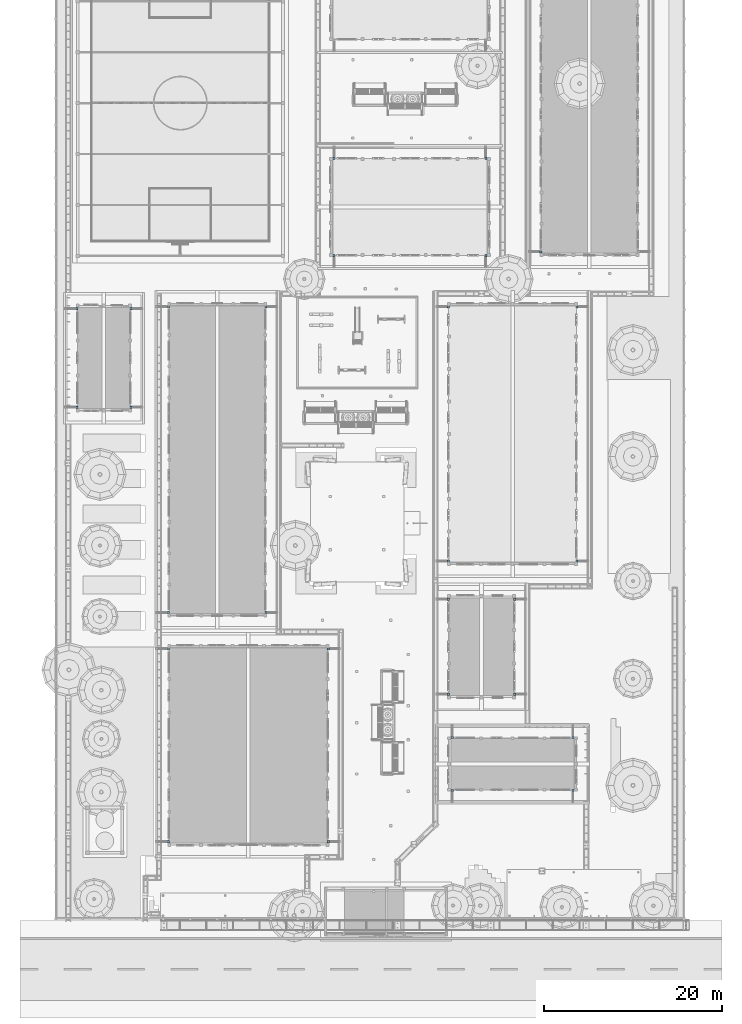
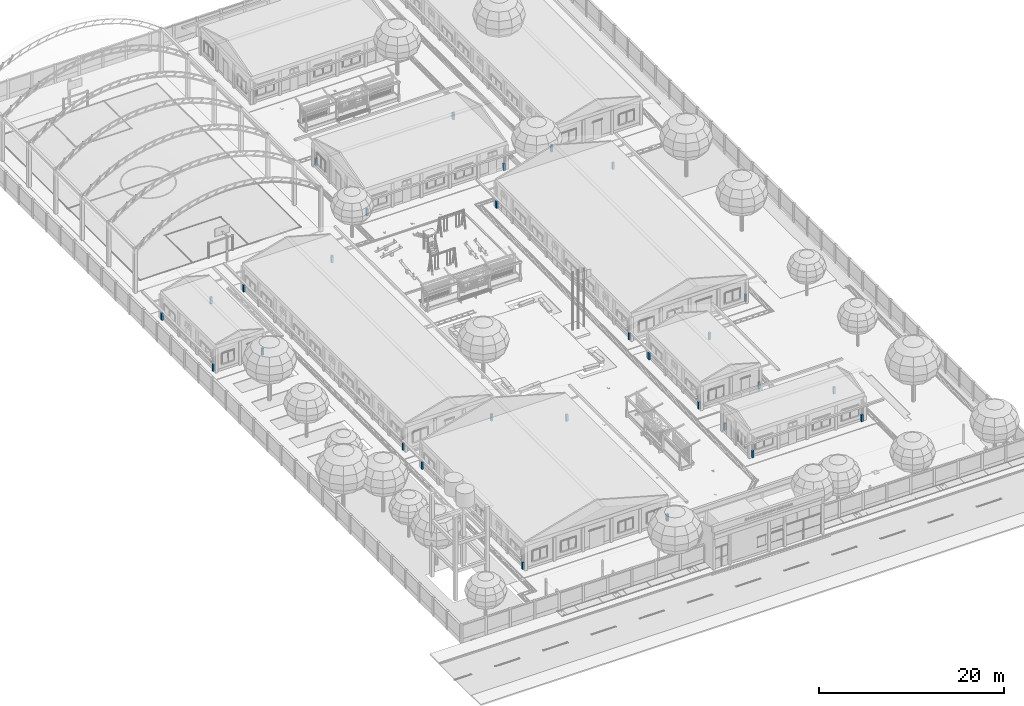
# One storey, part 13 of 166: 29 columns.
"""IFC2X3 building model written with IfcOpenShell, lengths in metres."""

from ifc_helpers import new_model, si_unit, origin, origin_with_axes, place, context, subcontext, project, spatial, faceted_brep, element, save


model = new_model("IFC2X3")

# Units and contexts
model_context = context("Model", 3, precision=1e-05, world=origin_with_axes())
body_context = subcontext(model_context, "Body", "Model", "MODEL_VIEW")
ifc_project = project(units=[si_unit("LENGTHUNIT", "METRE"), si_unit("AREAUNIT", "SQUARE_METRE"), si_unit("VOLUMEUNIT", "CUBIC_METRE"), si_unit("PLANEANGLEUNIT", "RADIAN")], contexts=[model_context])

# Site, building, storey
site_placement = place(None, origin_with_axes())
site = spatial("IfcSite", under=ifc_project, at=site_placement, Name="Predio Los Mangos - Morales, San Martín", CompositionType="ELEMENT")
building_placement = place(site_placement, origin())
building = spatial("IfcBuilding", under=site, at=building_placement, Name="Hogar de Refugio Temporal", CompositionType="ELEMENT")
storey_placement = place(building_placement, origin())
storey = spatial("IfcBuildingStorey", under=building, at=storey_placement, Name="NIVEL 1 (NPT +0.00)", CompositionType="ELEMENT", Elevation=0.0)

# Columns
column_1_placement = place(storey_placement, origin())
element("IfcColumn", 1, at=column_1_placement, inside=storey, Name="falsa_columna", ObjectType="Falsa columna", context=body_context, shape_type="Brep", body=[
    faceted_brep([(13.585, 26.525, 0.15), (13.585, 26.775, 0.15), (13.835, 26.775, 0.15), (13.835, 26.525, 0.15), (13.585, 26.525, 1.05), (13.835, 26.525, 1.05), (13.835, 26.775, 1.05), (13.585, 26.775, 1.05)], [[[0, 1, 2, 3]], [[4, 5, 6, 7]], [[0, 3, 5, 4]], [[3, 2, 6, 5]], [[2, 1, 7, 6]], [[1, 0, 4, 7]]]),
])
column_2_placement = place(storey_placement, origin())
element("IfcColumn", 2, at=column_2_placement, inside=storey, Name="falsa_columna", ObjectType="Falsa columna", context=body_context, shape_type="Brep", body=[
    faceted_brep([(13.585, 48.225, 0.15), (13.585, 48.475, 0.15), (13.835, 48.475, 0.15), (13.835, 48.225, 0.15), (13.585, 48.225, 1.05), (13.835, 48.225, 1.05), (13.835, 48.475, 1.05), (13.585, 48.475, 1.05)], [[[0, 1, 2, 3]], [[4, 5, 6, 7]], [[0, 3, 5, 4]], [[3, 2, 6, 5]], [[2, 1, 7, 6]], [[1, 0, 4, 7]]]),
])
column_3_placement = place(storey_placement, origin())
element("IfcColumn", 3, at=column_3_placement, inside=storey, Name="falsa_columna", ObjectType="Falsa columna", context=body_context, shape_type="Brep", body=[
    faceted_brep([(31.565, 26.525, 0.15), (31.565, 26.775, 0.15), (31.815, 26.775, 0.15), (31.815, 26.525, 0.15), (31.565, 26.525, 1.05), (31.815, 26.525, 1.05), (31.815, 26.775, 1.05), (31.565, 26.775, 1.05)], [[[0, 1, 2, 3]], [[4, 5, 6, 7]], [[0, 3, 5, 4]], [[3, 2, 6, 5]], [[2, 1, 7, 6]], [[1, 0, 4, 7]]]),
])
column_4_placement = place(storey_placement, origin())
element("IfcColumn", 4, at=column_4_placement, inside=storey, Name="falsa_columna", ObjectType="Falsa columna", context=body_context, shape_type="Brep", body=[
    faceted_brep([(31.565, 48.225, 0.15), (31.565, 48.475, 0.15), (31.815, 48.475, 0.15), (31.815, 48.225, 0.15), (31.565, 48.225, 1.05), (31.815, 48.225, 1.05), (31.815, 48.475, 1.05), (31.565, 48.475, 1.05)], [[[0, 1, 2, 3]], [[4, 5, 6, 7]], [[0, 3, 5, 4]], [[3, 2, 6, 5]], [[2, 1, 7, 6]], [[1, 0, 4, 7]]]),
])
column_5_placement = place(storey_placement, origin())
element("IfcColumn", 5, at=column_5_placement, inside=storey, Name="falsa_columna", ObjectType="Falsa columna", context=body_context, shape_type="Brep", body=[
    faceted_brep([(45.085, 43.125, 0.15), (45.085, 43.375, 0.15), (45.335, 43.375, 0.15), (45.335, 43.125, 0.15), (45.085, 43.125, 1.05), (45.335, 43.125, 1.05), (45.335, 43.375, 1.05), (45.085, 43.375, 1.05)], [[[0, 1, 2, 3]], [[4, 5, 6, 7]], [[0, 3, 5, 4]], [[3, 2, 6, 5]], [[2, 1, 7, 6]], [[1, 0, 4, 7]]]),
])
column_6_placement = place(storey_placement, origin())
element("IfcColumn", 6, at=column_6_placement, inside=storey, Name="falsa_columna", ObjectType="Falsa columna", context=body_context, shape_type="Brep", body=[
    faceted_brep([(45.085, 53.825, 0.15), (45.085, 54.075, 0.15), (45.335, 54.075, 0.15), (45.335, 53.825, 0.15), (45.085, 53.825, 1.05), (45.335, 53.825, 1.05), (45.335, 54.075, 1.05), (45.085, 54.075, 1.05)], [[[0, 1, 2, 3]], [[4, 5, 6, 7]], [[0, 3, 5, 4]], [[3, 2, 6, 5]], [[2, 1, 7, 6]], [[1, 0, 4, 7]]]),
])
column_7_placement = place(storey_placement, origin())
element("IfcColumn", 7, at=column_7_placement, inside=storey, Name="falsa_columna", ObjectType="Falsa columna", context=body_context, shape_type="Brep", body=[
    faceted_brep([(52.565, 43.125, 0.15), (52.565, 43.375, 0.15), (52.815, 43.375, 0.15), (52.815, 43.125, 0.15), (52.565, 43.125, 1.05), (52.815, 43.125, 1.05), (52.815, 43.375, 1.05), (52.565, 43.375, 1.05)], [[[0, 1, 2, 3]], [[4, 5, 6, 7]], [[0, 3, 5, 4]], [[3, 2, 6, 5]], [[2, 1, 7, 6]], [[1, 0, 4, 7]]]),
])
column_8_placement = place(storey_placement, origin())
element("IfcColumn", 8, at=column_8_placement, inside=storey, Name="falsa_columna", ObjectType="Falsa columna", context=body_context, shape_type="Brep", body=[
    faceted_brep([(52.565, 53.825, 0.15), (52.565, 54.075, 0.15), (52.815, 54.075, 0.15), (52.815, 53.825, 0.15), (52.565, 53.825, 1.05), (52.815, 53.825, 1.05), (52.815, 54.075, 1.05), (52.565, 54.075, 1.05)], [[[0, 1, 2, 3]], [[4, 5, 6, 7]], [[0, 3, 5, 4]], [[3, 2, 6, 5]], [[2, 1, 7, 6]], [[1, 0, 4, 7]]]),
])
column_9_placement = place(storey_placement, origin())
element("IfcColumn", 9, at=column_9_placement, inside=storey, Name="falsa_columna", ObjectType="Falsa columna", context=body_context, shape_type="Brep", body=[
    faceted_brep([(45.525, 32.285, 0.15), (45.525, 32.535, 0.15), (45.775, 32.535, 0.15), (45.775, 32.285, 0.15), (45.525, 32.285, 1.05), (45.775, 32.285, 1.05), (45.775, 32.535, 1.05), (45.525, 32.535, 1.05)], [[[0, 1, 2, 3]], [[4, 5, 6, 7]], [[0, 3, 5, 4]], [[3, 2, 6, 5]], [[2, 1, 7, 6]], [[1, 0, 4, 7]]]),
])
column_10_placement = place(storey_placement, origin())
element("IfcColumn", 10, at=column_10_placement, inside=storey, Name="falsa_columna", ObjectType="Falsa columna", context=body_context, shape_type="Brep", body=[
    faceted_brep([(59.125, 32.285, 0.15), (59.125, 32.535, 0.15), (59.375, 32.535, 0.15), (59.375, 32.285, 0.15), (59.125, 32.285, 1.05), (59.375, 32.285, 1.05), (59.375, 32.535, 1.05), (59.125, 32.535, 1.05)], [[[0, 1, 2, 3]], [[4, 5, 6, 7]], [[0, 3, 5, 4]], [[3, 2, 6, 5]], [[2, 1, 7, 6]], [[1, 0, 4, 7]]]),
])
column_11_placement = place(storey_placement, origin())
element("IfcColumn", 11, at=column_11_placement, inside=storey, Name="falsa_columna", ObjectType="Falsa columna", context=body_context, shape_type="Brep", body=[
    faceted_brep([(45.525, 38.265, 0.15), (45.525, 38.515, 0.15), (45.775, 38.515, 0.15), (45.775, 38.265, 0.15), (45.525, 38.265, 1.05), (45.775, 38.265, 1.05), (45.775, 38.515, 1.05), (45.525, 38.515, 1.05)], [[[0, 1, 2, 3]], [[4, 5, 6, 7]], [[0, 3, 5, 4]], [[3, 2, 6, 5]], [[2, 1, 7, 6]], [[1, 0, 4, 7]]]),
])
column_12_placement = place(storey_placement, origin())
element("IfcColumn", 12, at=column_12_placement, inside=storey, Name="falsa_columna", ObjectType="Falsa columna", context=body_context, shape_type="Brep", body=[
    faceted_brep([(59.125, 38.265, 0.15), (59.125, 38.515, 0.15), (59.375, 38.515, 0.15), (59.375, 38.265, 0.15), (59.125, 38.265, 1.05), (59.375, 38.265, 1.05), (59.375, 38.515, 1.05), (59.125, 38.515, 1.05)], [[[0, 1, 2, 3]], [[4, 5, 6, 7]], [[0, 3, 5, 4]], [[3, 2, 6, 5]], [[2, 1, 7, 6]], [[1, 0, 4, 7]]]),
])
column_13_placement = place(storey_placement, origin())
element("IfcColumn", 13, at=column_13_placement, inside=storey, Name="falsa_columna", ObjectType="Falsa columna", context=body_context, shape_type="Brep", body=[
    faceted_brep([(13.585, 52.325, 0.15), (13.585, 52.575, 0.15), (13.835, 52.575, 0.15), (13.835, 52.325, 0.15), (13.585, 52.325, 1.05), (13.835, 52.325, 1.05), (13.835, 52.575, 1.05), (13.585, 52.575, 1.05)], [[[0, 1, 2, 3]], [[4, 5, 6, 7]], [[0, 3, 5, 4]], [[3, 2, 6, 5]], [[2, 1, 7, 6]], [[1, 0, 4, 7]]]),
])
column_14_placement = place(storey_placement, origin())
element("IfcColumn", 14, at=column_14_placement, inside=storey, Name="falsa_columna", ObjectType="Falsa columna", context=body_context, shape_type="Brep", body=[
    faceted_brep([(13.585, 86.725, 0.15), (13.585, 86.975, 0.15), (13.835, 86.975, 0.15), (13.835, 86.725, 0.15), (13.585, 86.725, 1.05), (13.835, 86.725, 1.05), (13.835, 86.975, 1.05), (13.585, 86.975, 1.05)], [[[0, 1, 2, 3]], [[4, 5, 6, 7]], [[0, 3, 5, 4]], [[3, 2, 6, 5]], [[2, 1, 7, 6]], [[1, 0, 4, 7]]]),
])
column_15_placement = place(storey_placement, origin())
element("IfcColumn", 15, at=column_15_placement, inside=storey, Name="falsa_columna", ObjectType="Falsa columna", context=body_context, shape_type="Brep", body=[
    faceted_brep([(24.565, 52.325, 0.15), (24.565, 52.575, 0.15), (24.815, 52.575, 0.15), (24.815, 52.325, 0.15), (24.565, 52.325, 1.05), (24.815, 52.325, 1.05), (24.815, 52.575, 1.05), (24.565, 52.575, 1.05)], [[[0, 1, 2, 3]], [[4, 5, 6, 7]], [[0, 3, 5, 4]], [[3, 2, 6, 5]], [[2, 1, 7, 6]], [[1, 0, 4, 7]]]),
])
column_16_placement = place(storey_placement, origin())
element("IfcColumn", 16, at=column_16_placement, inside=storey, Name="falsa_columna", ObjectType="Falsa columna", context=body_context, shape_type="Brep", body=[
    faceted_brep([(24.565, 86.725, 0.15), (24.565, 86.975, 0.15), (24.815, 86.975, 0.15), (24.815, 86.725, 0.15), (24.565, 86.725, 1.05), (24.815, 86.725, 1.05), (24.815, 86.975, 1.05), (24.565, 86.975, 1.05)], [[[0, 1, 2, 3]], [[4, 5, 6, 7]], [[0, 3, 5, 4]], [[3, 2, 6, 5]], [[2, 1, 7, 6]], [[1, 0, 4, 7]]]),
])
column_17_placement = place(storey_placement, origin())
element("IfcColumn", 17, at=column_17_placement, inside=storey, Name="falsa_columna", ObjectType="Falsa columna", context=body_context, shape_type="Brep", body=[
    faceted_brep([(45.085, 58.125, 0.15), (45.085, 58.375, 0.15), (45.335, 58.375, 0.15), (45.335, 58.125, 0.15), (45.085, 58.125, 1.05), (45.335, 58.125, 1.05), (45.335, 58.375, 1.05), (45.085, 58.375, 1.05)], [[[0, 1, 2, 3]], [[4, 5, 6, 7]], [[0, 3, 5, 4]], [[3, 2, 6, 5]], [[2, 1, 7, 6]], [[1, 0, 4, 7]]]),
])
column_18_placement = place(storey_placement, origin())
element("IfcColumn", 18, at=column_18_placement, inside=storey, Name="falsa_columna", ObjectType="Falsa columna", context=body_context, shape_type="Brep", body=[
    faceted_brep([(45.085, 86.725, 0.15), (45.085, 86.975, 0.15), (45.335, 86.975, 0.15), (45.335, 86.725, 0.15), (45.085, 86.725, 1.05), (45.335, 86.725, 1.05), (45.335, 86.975, 1.05), (45.085, 86.975, 1.05)], [[[0, 1, 2, 3]], [[4, 5, 6, 7]], [[0, 3, 5, 4]], [[3, 2, 6, 5]], [[2, 1, 7, 6]], [[1, 0, 4, 7]]]),
])
column_19_placement = place(storey_placement, origin())
element("IfcColumn", 19, at=column_19_placement, inside=storey, Name="falsa_columna", ObjectType="Falsa columna", context=body_context, shape_type="Brep", body=[
    faceted_brep([(59.565, 58.125, 0.15), (59.565, 58.375, 0.15), (59.815, 58.375, 0.15), (59.815, 58.125, 0.15), (59.565, 58.125, 1.05), (59.815, 58.125, 1.05), (59.815, 58.375, 1.05), (59.565, 58.375, 1.05)], [[[0, 1, 2, 3]], [[4, 5, 6, 7]], [[0, 3, 5, 4]], [[3, 2, 6, 5]], [[2, 1, 7, 6]], [[1, 0, 4, 7]]]),
])
column_20_placement = place(storey_placement, origin())
element("IfcColumn", 20, at=column_20_placement, inside=storey, Name="falsa_columna", ObjectType="Falsa columna", context=body_context, shape_type="Brep", body=[
    faceted_brep([(59.565, 86.725, 0.15), (59.565, 86.975, 0.15), (59.815, 86.975, 0.15), (59.815, 86.725, 0.15), (59.565, 86.725, 1.05), (59.815, 86.725, 1.05), (59.815, 86.975, 1.05), (59.565, 86.975, 1.05)], [[[0, 1, 2, 3]], [[4, 5, 6, 7]], [[0, 3, 5, 4]], [[3, 2, 6, 5]], [[2, 1, 7, 6]], [[1, 0, 4, 7]]]),
])
column_21_placement = place(storey_placement, origin())
element("IfcColumn", 21, at=column_21_placement, inside=storey, Name="falsa_columna", ObjectType="Falsa columna", context=body_context, shape_type="Brep", body=[
    faceted_brep([(32.225, 92.485, 0.15), (32.225, 92.735, 0.15), (32.475, 92.735, 0.15), (32.475, 92.485, 0.15), (32.225, 92.485, 1.05), (32.475, 92.485, 1.05), (32.475, 92.735, 1.05), (32.225, 92.735, 1.05)], [[[0, 1, 2, 3]], [[4, 5, 6, 7]], [[0, 3, 5, 4]], [[3, 2, 6, 5]], [[2, 1, 7, 6]], [[1, 0, 4, 7]]]),
])
column_22_placement = place(storey_placement, origin())
element("IfcColumn", 22, at=column_22_placement, inside=storey, Name="falsa_columna", ObjectType="Falsa columna", context=body_context, shape_type="Brep", body=[
    faceted_brep([(49.325, 92.485, 0.15), (49.325, 92.735, 0.15), (49.575, 92.735, 0.15), (49.575, 92.485, 0.15), (49.325, 92.485, 1.05), (49.575, 92.485, 1.05), (49.575, 92.735, 1.05), (49.325, 92.735, 1.05)], [[[0, 1, 2, 3]], [[4, 5, 6, 7]], [[0, 3, 5, 4]], [[3, 2, 6, 5]], [[2, 1, 7, 6]], [[1, 0, 4, 7]]]),
])
column_23_placement = place(storey_placement, origin())
element("IfcColumn", 23, at=column_23_placement, inside=storey, Name="falsa_columna", ObjectType="Falsa columna", context=body_context, shape_type="Brep", body=[
    faceted_brep([(32.225, 103.465, 0.15), (32.225, 103.715, 0.15), (32.475, 103.715, 0.15), (32.475, 103.465, 0.15), (32.225, 103.465, 1.05), (32.475, 103.465, 1.05), (32.475, 103.715, 1.05), (32.225, 103.715, 1.05)], [[[0, 1, 2, 3]], [[4, 5, 6, 7]], [[0, 3, 5, 4]], [[3, 2, 6, 5]], [[2, 1, 7, 6]], [[1, 0, 4, 7]]]),
])
column_24_placement = place(storey_placement, origin())
element("IfcColumn", 24, at=column_24_placement, inside=storey, Name="falsa_columna", ObjectType="Falsa columna", context=body_context, shape_type="Brep", body=[
    faceted_brep([(49.325, 103.465, 0.15), (49.325, 103.715, 0.15), (49.575, 103.715, 0.15), (49.575, 103.465, 0.15), (49.325, 103.465, 1.05), (49.575, 103.465, 1.05), (49.575, 103.715, 1.05), (49.325, 103.715, 1.05)], [[[0, 1, 2, 3]], [[4, 5, 6, 7]], [[0, 3, 5, 4]], [[3, 2, 6, 5]], [[2, 1, 7, 6]], [[1, 0, 4, 7]]]),
])
column_25_placement = place(storey_placement, origin())
element("IfcColumn", 25, at=column_25_placement, inside=storey, Name="falsa_columna", ObjectType="Falsa columna", context=body_context, shape_type="Brep", body=[
    faceted_brep([(55.485, 92.925, 0.15), (55.485, 93.175, 0.15), (55.735, 93.175, 0.15), (55.735, 92.925, 0.15), (55.485, 92.925, 1.05), (55.735, 92.925, 1.05), (55.735, 93.175, 1.05), (55.485, 93.175, 1.05)], [[[0, 1, 2, 3]], [[4, 5, 6, 7]], [[0, 3, 5, 4]], [[3, 2, 6, 5]], [[2, 1, 7, 6]], [[1, 0, 4, 7]]]),
])
column_26_placement = place(storey_placement, origin())
element("IfcColumn", 26, at=column_26_placement, inside=storey, Name="falsa_columna", ObjectType="Falsa columna", context=body_context, shape_type="Brep", body=[
    faceted_brep([(3.285, 75.425, 0.15), (3.285, 75.675, 0.15), (3.535, 75.675, 0.15), (3.535, 75.425, 0.15), (3.285, 75.425, 1.05), (3.535, 75.425, 1.05), (3.535, 75.675, 1.05), (3.285, 75.675, 1.05)], [[[0, 1, 2, 3]], [[4, 5, 6, 7]], [[0, 3, 5, 4]], [[3, 2, 6, 5]], [[2, 1, 7, 6]], [[1, 0, 4, 7]]]),
])
column_27_placement = place(storey_placement, origin())
element("IfcColumn", 27, at=column_27_placement, inside=storey, Name="falsa_columna", ObjectType="Falsa columna", context=body_context, shape_type="Brep", body=[
    faceted_brep([(3.285, 86.525, 0.15), (3.285, 86.775, 0.15), (3.535, 86.775, 0.15), (3.535, 86.525, 0.15), (3.285, 86.525, 1.05), (3.535, 86.525, 1.05), (3.535, 86.775, 1.05), (3.285, 86.775, 1.05)], [[[0, 1, 2, 3]], [[4, 5, 6, 7]], [[0, 3, 5, 4]], [[3, 2, 6, 5]], [[2, 1, 7, 6]], [[1, 0, 4, 7]]]),
])
column_28_placement = place(storey_placement, origin())
element("IfcColumn", 28, at=column_28_placement, inside=storey, Name="falsa_columna", ObjectType="Falsa columna", context=body_context, shape_type="Brep", body=[
    faceted_brep([(9.365, 75.425, 0.15), (9.365, 75.675, 0.15), (9.615, 75.675, 0.15), (9.615, 75.425, 0.15), (9.365, 75.425, 1.05), (9.615, 75.425, 1.05), (9.615, 75.675, 1.05), (9.365, 75.675, 1.05)], [[[0, 1, 2, 3]], [[4, 5, 6, 7]], [[0, 3, 5, 4]], [[3, 2, 6, 5]], [[2, 1, 7, 6]], [[1, 0, 4, 7]]]),
])
column_29_placement = place(storey_placement, origin())
element("IfcColumn", 29, at=column_29_placement, inside=storey, Name="falsa_columna", ObjectType="Falsa columna", context=body_context, shape_type="Brep", body=[
    faceted_brep([(9.365, 86.525, 0.15), (9.365, 86.775, 0.15), (9.615, 86.775, 0.15), (9.615, 86.525, 0.15), (9.365, 86.525, 1.05), (9.615, 86.525, 1.05), (9.615, 86.775, 1.05), (9.365, 86.775, 1.05)], [[[0, 1, 2, 3]], [[4, 5, 6, 7]], [[0, 3, 5, 4]], [[3, 2, 6, 5]], [[2, 1, 7, 6]], [[1, 0, 4, 7]]]),
])

save(model, "model.ifc")
